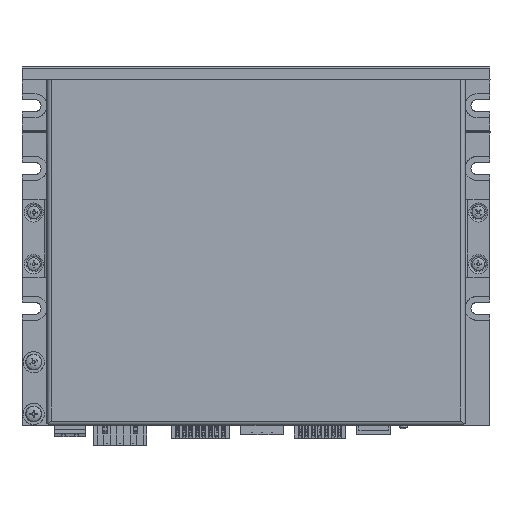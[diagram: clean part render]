
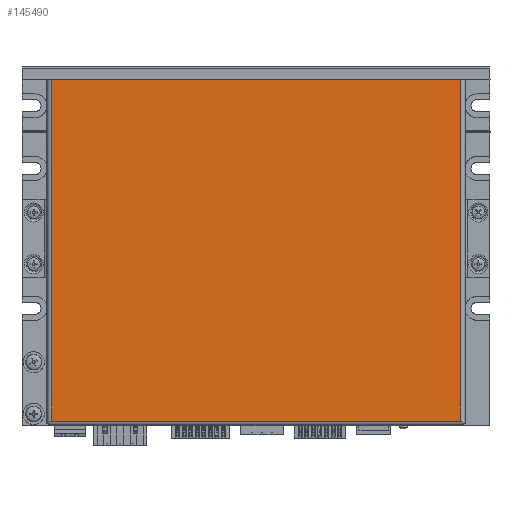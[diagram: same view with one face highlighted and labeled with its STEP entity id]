
A CAD part, top view. The second image highlights one B-rep face of the part: STEP entity #145490.
In plain terms, the highlighted planar face has unit normal (0, 0, 1).
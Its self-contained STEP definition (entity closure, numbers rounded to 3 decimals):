
#17340=LINE('',#225609,#29927);
#17367=LINE('',#225708,#29954);
#17368=LINE('',#225710,#29955);
#17369=LINE('',#225712,#29956);
#29927=VECTOR('',#185076,1000.);
#29954=VECTOR('',#185193,1000.);
#29955=VECTOR('',#185194,1000.);
#29956=VECTOR('',#185195,1000.);
#62258=ORIENTED_EDGE('',*,*,#78916,.T.);
#62259=ORIENTED_EDGE('',*,*,#78917,.T.);
#62260=ORIENTED_EDGE('',*,*,#78918,.T.);
#62261=ORIENTED_EDGE('',*,*,#78870,.T.);
#78870=EDGE_CURVE('',#89808,#89807,#17340,.T.);
#78916=EDGE_CURVE('',#89807,#89835,#17367,.T.);
#78917=EDGE_CURVE('',#89835,#89836,#17368,.T.);
#78918=EDGE_CURVE('',#89836,#89808,#17369,.T.);
#89807=VERTEX_POINT('',#225608);
#89808=VERTEX_POINT('',#225610);
#89835=VERTEX_POINT('',#225709);
#89836=VERTEX_POINT('',#225711);
#97874=EDGE_LOOP('',(#62258,#62259,#62260,#62261));
#105220=FACE_BOUND('',#97874,.T.);
#109867=PLANE('',#154685);
#145490=ADVANCED_FACE('',(#105220),#109867,.T.);
#154685=AXIS2_PLACEMENT_3D('',#225707,#185191,#185192);
#185076=DIRECTION('',(-1.,0.,0.));
#185191=DIRECTION('',(0.,0.,1.));
#185192=DIRECTION('',(1.,0.,0.));
#185193=DIRECTION('',(0.,-1.,0.));
#185194=DIRECTION('',(1.,0.,0.));
#185195=DIRECTION('',(0.,1.,0.));
#225608=CARTESIAN_POINT('',(-79.05,66.75,0.));
#225609=CARTESIAN_POINT('',(80.75,66.75,0.));
#225610=CARTESIAN_POINT('',(79.05,66.75,0.));
#225707=CARTESIAN_POINT('',(0.,0.,0.));
#225708=CARTESIAN_POINT('',(-79.05,66.75,0.));
#225709=CARTESIAN_POINT('',(-79.05,-65.05,0.));
#225710=CARTESIAN_POINT('',(-79.05,-65.05,0.));
#225711=CARTESIAN_POINT('',(79.05,-65.05,0.));
#225712=CARTESIAN_POINT('',(79.05,-66.75,0.));
